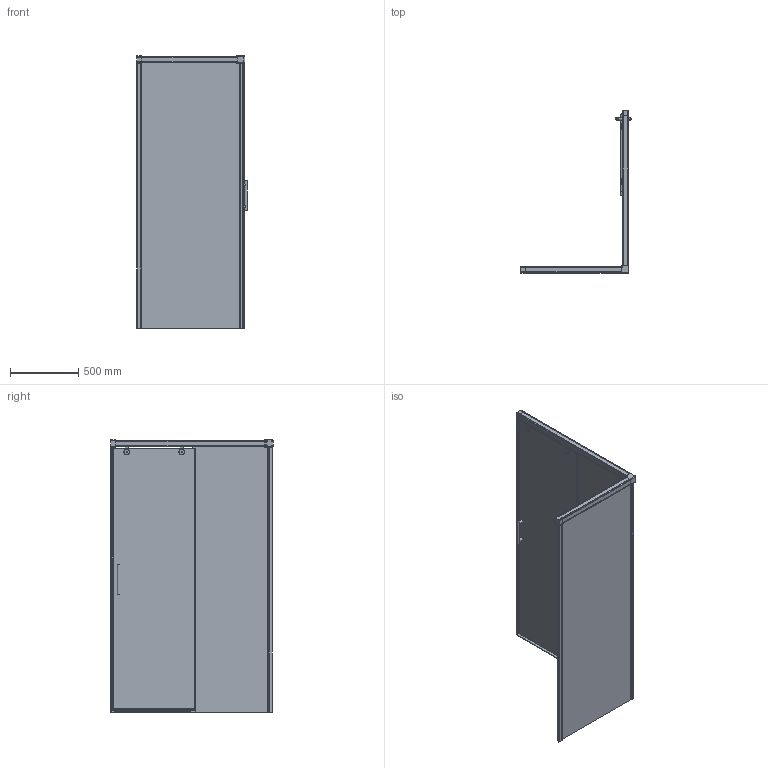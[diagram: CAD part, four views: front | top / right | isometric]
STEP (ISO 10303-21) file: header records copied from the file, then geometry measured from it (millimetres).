
FILE_DESCRIPTION(/* description */ (''),/* implementation_level */ '2;1');
FILE_NAME(/* name */ 'D:\88\SLIDE RECTAN GK-863B\SLIDE RECTAN GK-863B левая модель\SLIDE RECTAN GK-863B ЛЕВАЯ-3D.stp',/* time_stamp */ '2020-09-26T10:50:45+03:00',/* author */ ('User'),/* organization */ (''),/* preprocessor_version */ 'ST-DEVELOPER v15.2',/* originating_system */ 'Autodesk Inventor 2014',/* authorisation */ '');
FILE_SCHEMA (('AUTOMOTIVE_DESIGN { 1 0 10303 214 3 1 1 }'));
Length unit declared in the file: millimetre
Products named in the file (1): SLIDE RECTAN GK-863B ЛЕВАЯ-3D
Bounding box: 810 x 1194.5 x 2001.5 mm (x, y, z)
Volume: 35740835.6 mm3; surface area: 9436090.9 mm2
Topology: 3 solids, 8 shells, 833 faces, 2232 edges, 1431 vertices
Faces by surface type: plane 514, cylinder 265, torus 38, bspline 14, cone 2
Full cylindrical faces by diameter (mm): 11 x2, 15.5 x2, 16 x2, 20 x6, 37 x4, 42 x4
Entity records: 27197 total; most frequent: CARTESIAN_POINT 5387, ORIENTED_EDGE 4372, DIRECTION 4328, EDGE_CURVE 2185, LINE 1508, VECTOR 1508, VERTEX_POINT 1418, AXIS2_PLACEMENT_3D 1410
